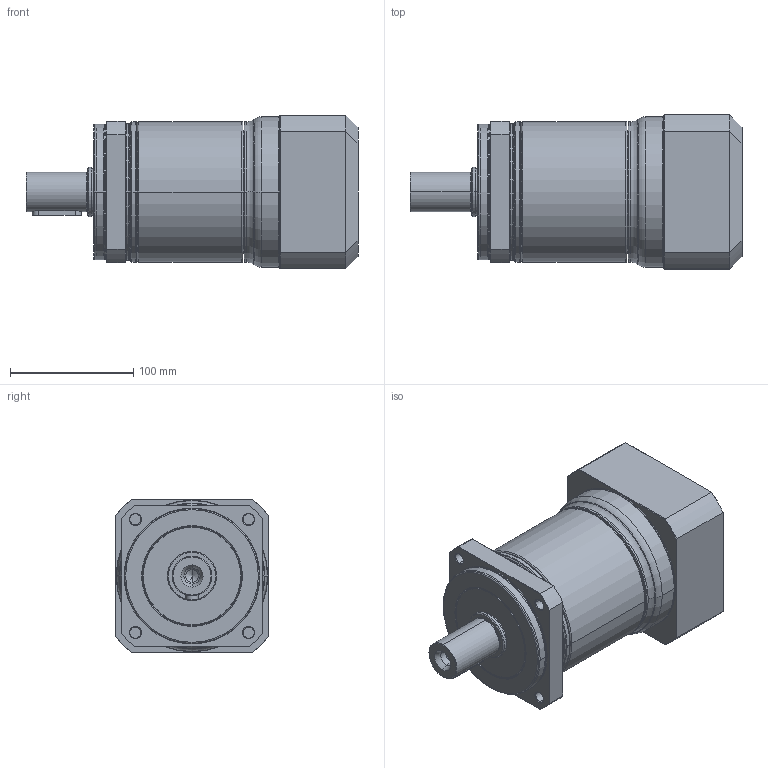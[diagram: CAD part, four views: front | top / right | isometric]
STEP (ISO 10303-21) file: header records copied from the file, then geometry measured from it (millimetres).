
FILE_DESCRIPTION((''),'2;1');
FILE_NAME('PA2-115_2ST_32-P0411700101_ASM','2016-05-11T',('d01943'),(''),'PRO/ENGINEER BY PARAMETRIC TECHNOLOGY CORPORATION, 2008410','PRO/ENGINEER BY PARAMETRIC TECHNOLOGY CORPORATION, 2008410','');
FILE_SCHEMA(('CONFIG_CONTROL_DESIGN'));
Length unit declared in the file: millimetre
Products named in the file (9): P1327410001; P0251400001; P1324400301; P0350400601; P0941403001; P0503700010; P0411700101; P1702600001; PA2-115_2ST_32-P0411700101_ASM
Assembly tree (8 placements, depth 2):
  PA2-115_2ST_32-P0411700101_ASM
    P1327410001
    P0251400001
    P1324400301
    P0350400601
    P0941403001
    P0503700010
    P0411700101
    P1702600001
Bounding box: 269.5 x 125 x 125 mm (x, y, z)
Volume: 1739747.3 mm3; surface area: 287063.7 mm2
Topology: 8 solids, 8 shells, 475 faces, 1039 edges, 598 vertices
Faces by surface type: cone 146, cylinder 135, torus 92, plane 86, bspline 16
Entity records: 17792 total; most frequent: CARTESIAN_POINT 7105, DIRECTION 2422, ORIENTED_EDGE 2038, AXIS2_PLACEMENT_3D 1034, EDGE_CURVE 1019, VERTEX_POINT 598, CIRCLE 558, EDGE_LOOP 537
